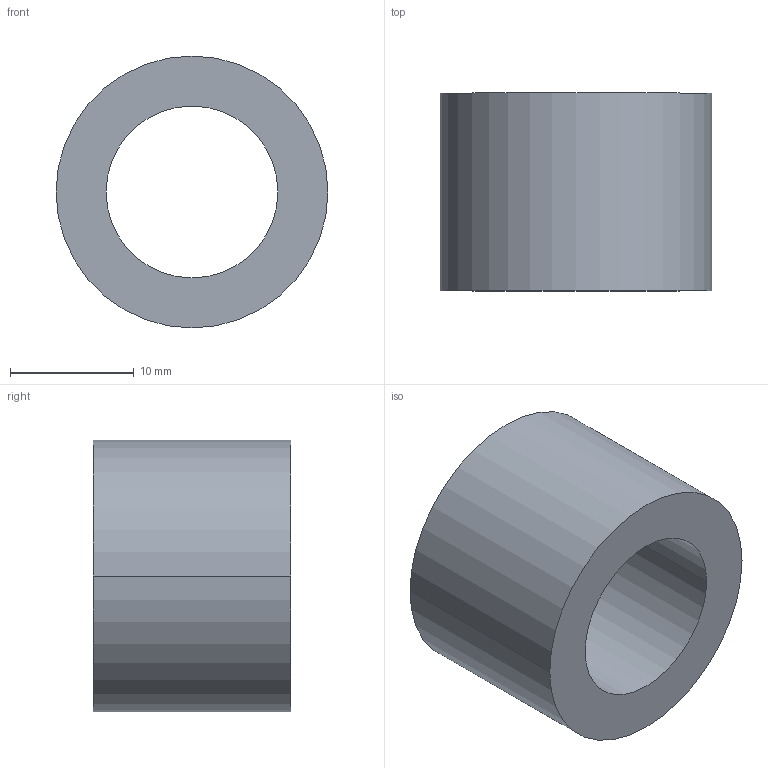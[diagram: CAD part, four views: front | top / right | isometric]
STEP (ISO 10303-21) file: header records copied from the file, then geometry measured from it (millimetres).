
FILE_DESCRIPTION (( 'STEP AP203' ), '1' );
FILE_NAME ('30800.WPP22F13.9.step', '2019-01-23T22:42:34', ( '' ), ( '' ), 'SwSTEP 2.0', 'SolidWorks 2017', '' );
FILE_SCHEMA (( 'CONFIG_CONTROL_DESIGN' ));
Length unit declared in the file: millimetre
Products named in the file (1): 30800.WPP22F13.9
Bounding box: 22 x 16 x 22 mm (x, y, z)
Volume: 3614.3 mm3; surface area: 2225.6 mm2
Topology: 1 solids, 1 shells, 8 faces, 16 edges, 10 vertices
Faces by surface type: cylinder 4, torus 2, plane 2
Entity records: 297 total; most frequent: DIRECTION 46, CARTESIAN_POINT 35, ORIENTED_EDGE 32, AXIS2_PLACEMENT_3D 21, EDGE_CURVE 16, CIRCLE 12, VERTEX_POINT 10, EDGE_LOOP 10
